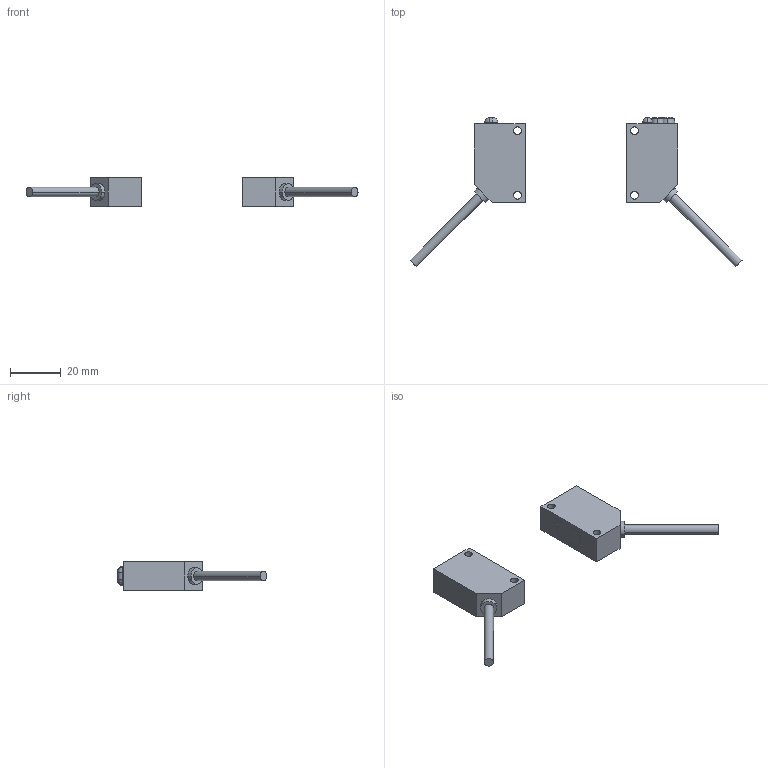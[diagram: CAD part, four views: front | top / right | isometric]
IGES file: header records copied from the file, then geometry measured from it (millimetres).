
Start section: SolidWorks IGES FILE using analytic representation for surfaces
Global section: file name: \\Intra-srv04\開発データ\CAD_Data\CAD委員会\3D電子ｶﾀﾛｸﾞ\製品カタログ（新）\0_IGES\CX-411.IGS,41HSolidWorks 2004; native system: by SolidWorks Corporation; preprocessor: Version 5.3; author: yk0651; date: 050905.110350; units: millimetre
Bounding box: 130.63 x 58.81 x 11.2 mm (x, y, z)
Volume: 14085.2 mm3; surface area: 6016.8 mm2
Topology: 2 solids, 2 shells, 101 faces, 246 edges, 152 vertices
Faces by surface type: revolution 57, plane 44
